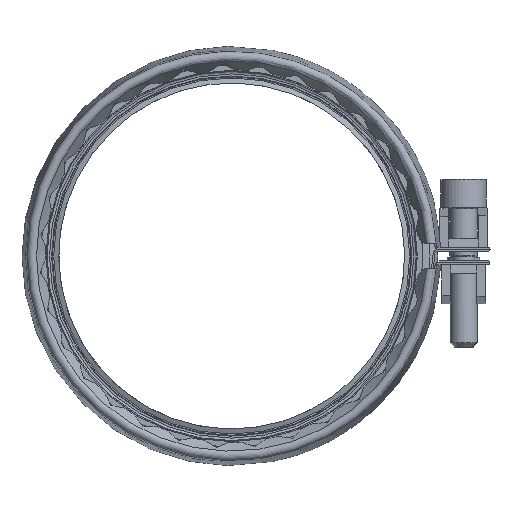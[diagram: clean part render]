
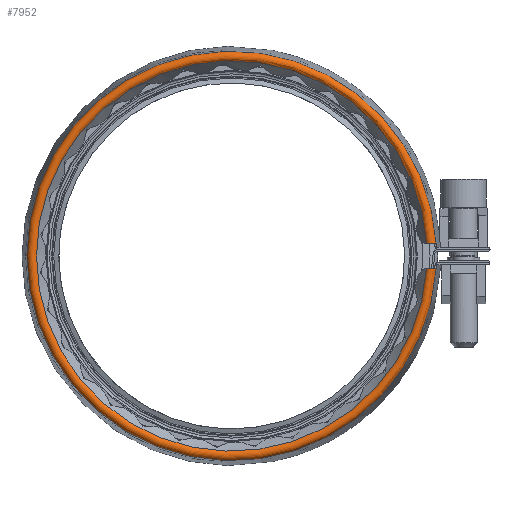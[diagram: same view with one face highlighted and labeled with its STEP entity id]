
A CAD part, left-side view. The second image highlights one B-rep face of the part: STEP entity #7952.
In plain terms, the highlighted toroidal (fillet/blend) face has major radius 57.15 mm and minor radius 1.5 mm.
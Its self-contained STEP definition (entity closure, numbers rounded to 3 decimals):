
#172=TOROIDAL_SURFACE('',#8559,57.15,1.5);
#282=B_SPLINE_CURVE_WITH_KNOTS('',3,(#12093,#12094,#12095,#12096),
 .UNSPECIFIED.,.F.,.F.,(4,4),(0.567,0.577),
 .UNSPECIFIED.);
#284=B_SPLINE_CURVE_WITH_KNOTS('',3,(#12117,#12118,#12119,#12120,#12121,
#12122,#12123,#12124,#12125,#12126,#12127,#12128,#12129,#12130,#12131,#12132),
 .UNSPECIFIED.,.F.,.F.,(4,2,2,2,2,2,2,4),(0.024,0.056,
0.111,0.167,0.222,0.278,
0.334,0.352),.UNSPECIFIED.);
#285=B_SPLINE_CURVE_WITH_KNOTS('',3,(#12133,#12134,#12135,#12136,#12137,
#12138),.UNSPECIFIED.,.F.,.F.,(4,2,4),(-0.011,-0.005,
0.),.UNSPECIFIED.);
#286=B_SPLINE_CURVE_WITH_KNOTS('',3,(#12139,#12140,#12141,#12142,#12143,
#12144,#12145,#12146,#12147,#12148,#12149,#12150,#12151,#12152,#12153,#12154),
 .UNSPECIFIED.,.F.,.F.,(4,2,2,2,2,2,2,4),(-0.865,-0.834,
-0.778,-0.723,-0.667,-0.611,
-0.556,-0.537),.UNSPECIFIED.);
#570=CIRCLE('',#8450,55.902);
#571=CIRCLE('',#8451,55.901);
#600=CIRCLE('',#8560,58.628);
#867=FACE_OUTER_BOUND('',#1310,.T.);
#1310=EDGE_LOOP('',(#5208,#5209,#5210,#5211,#5212,#5213,#5214));
#2932=VERTEX_POINT('',#11614);
#2933=VERTEX_POINT('',#11625);
#2934=VERTEX_POINT('',#11627);
#3022=VERTEX_POINT('',#12091);
#3023=VERTEX_POINT('',#12113);
#3024=VERTEX_POINT('',#12114);
#3025=VERTEX_POINT('',#12116);
#3746=EDGE_CURVE('',#2932,#2933,#570,.T.);
#3747=EDGE_CURVE('',#2933,#2934,#571,.T.);
#3880=EDGE_CURVE('',#2932,#3022,#282,.T.);
#3883=EDGE_CURVE('',#3023,#3024,#600,.T.);
#3884=EDGE_CURVE('',#3024,#3025,#284,.T.);
#3885=EDGE_CURVE('',#3025,#2934,#285,.T.);
#3886=EDGE_CURVE('',#3023,#3022,#286,.T.);
#5208=ORIENTED_EDGE('',*,*,#3883,.T.);
#5209=ORIENTED_EDGE('',*,*,#3884,.T.);
#5210=ORIENTED_EDGE('',*,*,#3885,.T.);
#5211=ORIENTED_EDGE('',*,*,#3747,.F.);
#5212=ORIENTED_EDGE('',*,*,#3746,.F.);
#5213=ORIENTED_EDGE('',*,*,#3880,.T.);
#5214=ORIENTED_EDGE('',*,*,#3886,.F.);
#7952=ADVANCED_FACE('',(#867),#172,.T.);
#8450=AXIS2_PLACEMENT_3D('',#11626,#9408,#9409);
#8451=AXIS2_PLACEMENT_3D('',#11628,#9410,#9411);
#8559=AXIS2_PLACEMENT_3D('',#12112,#9655,#9656);
#8560=AXIS2_PLACEMENT_3D('',#12115,#9657,#9658);
#9408=DIRECTION('center_axis',(-1.,0.,
0.));
#9409=DIRECTION('ref_axis',(0.,-0.998,0.062));
#9410=DIRECTION('center_axis',(-1.,0.,
0.));
#9411=DIRECTION('ref_axis',(0.,1.,0.));
#9655=DIRECTION('center_axis',(-1.,0.,0.));
#9656=DIRECTION('ref_axis',(0.,1.,0.));
#9657=DIRECTION('center_axis',(-1.,0.,0.));
#9658=DIRECTION('ref_axis',(0.,-0.998,0.059));
#11614=CARTESIAN_POINT('',(-25.332,161.394,-125.985));
#11625=CARTESIAN_POINT('',(-25.331,273.09,-129.437));
#11626=CARTESIAN_POINT('Origin',(-25.331,217.188,-129.437));
#11627=CARTESIAN_POINT('',(-25.331,161.393,-132.885));
#11628=CARTESIAN_POINT('Origin',(-25.331,217.188,-129.437));
#12091=CARTESIAN_POINT('',(-25.416,161.333,-125.986));
#12093=CARTESIAN_POINT('Ctrl Pts',(-25.332,161.394,-125.985));
#12094=CARTESIAN_POINT('Ctrl Pts',(-25.36,161.374,-125.985));
#12095=CARTESIAN_POINT('Ctrl Pts',(-25.388,161.354,-125.986));
#12096=CARTESIAN_POINT('Ctrl Pts',(-25.416,161.333,-125.986));
#12112=CARTESIAN_POINT('Origin',(-24.5,217.188,-129.437));
#12113=CARTESIAN_POINT('',(-24.753,158.662,-125.986));
#12114=CARTESIAN_POINT('',(-24.753,158.662,-132.887));
#12115=CARTESIAN_POINT('Origin',(-24.753,217.188,-129.437));
#12116=CARTESIAN_POINT('',(-25.415,161.333,-132.885));
#12117=CARTESIAN_POINT('Ctrl Pts',(-24.753,158.662,-132.887));
#12118=CARTESIAN_POINT('Ctrl Pts',(-24.866,158.681,-132.887));
#12119=CARTESIAN_POINT('Ctrl Pts',(-24.977,158.714,-132.887));
#12120=CARTESIAN_POINT('Ctrl Pts',(-25.245,158.825,-132.887));
#12121=CARTESIAN_POINT('Ctrl Pts',(-25.43,158.949,-132.887));
#12122=CARTESIAN_POINT('Ctrl Pts',(-25.692,159.211,-132.887));
#12123=CARTESIAN_POINT('Ctrl Pts',(-25.815,159.396,-132.887));
#12124=CARTESIAN_POINT('Ctrl Pts',(-25.957,159.739,-132.887));
#12125=CARTESIAN_POINT('Ctrl Pts',(-26.,159.957,-132.887));
#12126=CARTESIAN_POINT('Ctrl Pts',(-26.,160.328,-132.887));
#12127=CARTESIAN_POINT('Ctrl Pts',(-25.957,160.547,-132.887));
#12128=CARTESIAN_POINT('Ctrl Pts',(-25.815,160.89,-132.887));
#12129=CARTESIAN_POINT('Ctrl Pts',(-25.691,161.075,-132.887));
#12130=CARTESIAN_POINT('Ctrl Pts',(-25.517,161.249,-132.887));
#12131=CARTESIAN_POINT('Ctrl Pts',(-25.468,161.293,-132.887));
#12132=CARTESIAN_POINT('Ctrl Pts',(-25.416,161.333,-132.887));
#12133=CARTESIAN_POINT('Ctrl Pts',(-25.415,161.333,-132.884));
#12134=CARTESIAN_POINT('Ctrl Pts',(-25.402,161.344,-132.884));
#12135=CARTESIAN_POINT('Ctrl Pts',(-25.388,161.354,-132.884));
#12136=CARTESIAN_POINT('Ctrl Pts',(-25.36,161.374,-132.885));
#12137=CARTESIAN_POINT('Ctrl Pts',(-25.346,161.384,-132.885));
#12138=CARTESIAN_POINT('Ctrl Pts',(-25.331,161.393,-132.885));
#12139=CARTESIAN_POINT('Ctrl Pts',(-24.753,158.662,-125.986));
#12140=CARTESIAN_POINT('Ctrl Pts',(-24.866,158.681,-125.986));
#12141=CARTESIAN_POINT('Ctrl Pts',(-24.977,158.714,-125.986));
#12142=CARTESIAN_POINT('Ctrl Pts',(-25.245,158.825,-125.986));
#12143=CARTESIAN_POINT('Ctrl Pts',(-25.429,158.949,-125.986));
#12144=CARTESIAN_POINT('Ctrl Pts',(-25.691,159.211,-125.986));
#12145=CARTESIAN_POINT('Ctrl Pts',(-25.815,159.396,-125.986));
#12146=CARTESIAN_POINT('Ctrl Pts',(-25.957,159.739,-125.986));
#12147=CARTESIAN_POINT('Ctrl Pts',(-26.,159.957,-125.986));
#12148=CARTESIAN_POINT('Ctrl Pts',(-26.,160.328,-125.986));
#12149=CARTESIAN_POINT('Ctrl Pts',(-25.957,160.547,-125.986));
#12150=CARTESIAN_POINT('Ctrl Pts',(-25.815,160.89,-125.986));
#12151=CARTESIAN_POINT('Ctrl Pts',(-25.691,161.075,-125.986));
#12152=CARTESIAN_POINT('Ctrl Pts',(-25.517,161.249,-125.986));
#12153=CARTESIAN_POINT('Ctrl Pts',(-25.468,161.293,-125.986));
#12154=CARTESIAN_POINT('Ctrl Pts',(-25.416,161.333,-125.986));
